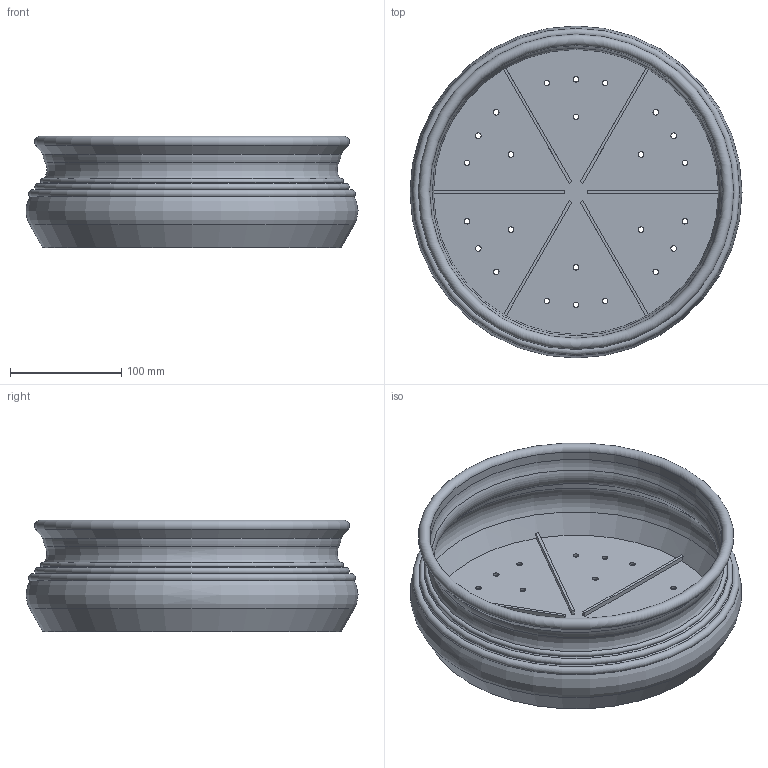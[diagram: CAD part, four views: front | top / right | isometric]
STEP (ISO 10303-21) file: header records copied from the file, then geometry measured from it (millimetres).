
FILE_DESCRIPTION(/* description */ (''),/* implementation_level */ '2;1');
FILE_NAME(/* name */ 'LR2406-S25-H100-D300_step.step',/* time_stamp */ '2024-02-01T10:59:04+01:00',/* author */ (''),/* organization */ (''),/* preprocessor_version */ 'ST-DEVELOPER v20',/* originating_system */ 'Autodesk Translation Framework v12.20.1.177',/* authorisation */ '');
FILE_SCHEMA (('AUTOMOTIVE_DESIGN { 1 0 10303 214 3 1 1 }'));
Length unit declared in the file: millimetre
Products named in the file (1): LR2406-S25-H100-D300
Bounding box: 298 x 298 x 100 mm (x, y, z)
Volume: 448918.9 mm3; surface area: 320213.5 mm2
Topology: 1 solids, 1 shells, 67 faces, 179 edges, 114 vertices
Faces by surface type: cylinder 31, plane 20, torus 10, cone 6
Full cylindrical faces by diameter (mm): 5 x24, 263 x1
Entity records: 2261 total; most frequent: DIRECTION 415, CARTESIAN_POINT 361, ORIENTED_EDGE 358, EDGE_CURVE 179, AXIS2_PLACEMENT_3D 168, EDGE_LOOP 115, VERTEX_POINT 114, CIRCLE 100
